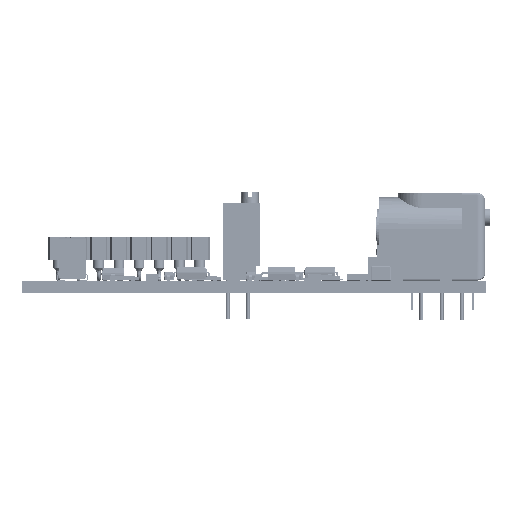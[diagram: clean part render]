
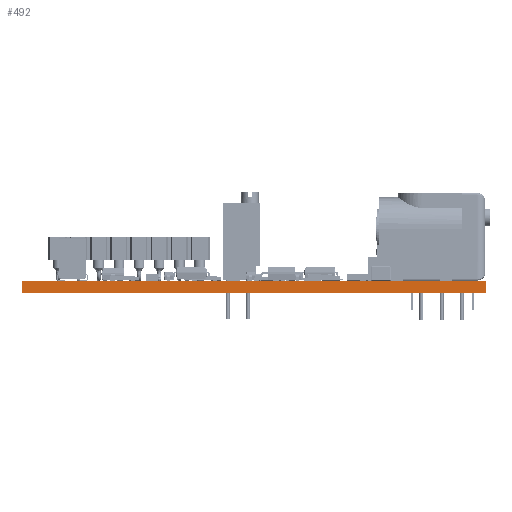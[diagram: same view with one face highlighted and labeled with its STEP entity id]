
A CAD part, front view. The second image highlights one B-rep face of the part: STEP entity #492.
In plain terms, the highlighted planar face has unit normal (0, -1, 0).
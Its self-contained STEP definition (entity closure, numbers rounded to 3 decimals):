
#434 = EDGE_CURVE('',#435,#437,#439,.T.);
#435 = VERTEX_POINT('',#436);
#436 = CARTESIAN_POINT('',(83.82,-119.38,0.));
#437 = VERTEX_POINT('',#438);
#438 = CARTESIAN_POINT('',(83.82,-119.38,-1.6));
#439 = LINE('',#440,#441);
#440 = CARTESIAN_POINT('',(83.82,-119.38,0.));
#441 = VECTOR('',#442,1.);
#442 = DIRECTION('',(0.,0.,-1.));
#467 = VERTEX_POINT('',#468);
#468 = CARTESIAN_POINT('',(25.4,-119.38,-1.6));
#474 = EDGE_CURVE('',#475,#467,#477,.T.);
#475 = VERTEX_POINT('',#476);
#476 = CARTESIAN_POINT('',(25.4,-119.38,0.));
#477 = LINE('',#478,#479);
#478 = CARTESIAN_POINT('',(25.4,-119.38,0.));
#479 = VECTOR('',#480,1.);
#480 = DIRECTION('',(0.,0.,-1.));
#492 = ADVANCED_FACE('',(#493),#509,.T.);
#493 = FACE_BOUND('',#494,.T.);
#494 = EDGE_LOOP('',(#495,#496,#502,#503));
#495 = ORIENTED_EDGE('',*,*,#474,.T.);
#496 = ORIENTED_EDGE('',*,*,#497,.T.);
#497 = EDGE_CURVE('',#467,#437,#498,.T.);
#498 = LINE('',#499,#500);
#499 = CARTESIAN_POINT('',(25.4,-119.38,-1.6));
#500 = VECTOR('',#501,1.);
#501 = DIRECTION('',(1.,0.,0.));
#502 = ORIENTED_EDGE('',*,*,#434,.F.);
#503 = ORIENTED_EDGE('',*,*,#504,.F.);
#504 = EDGE_CURVE('',#475,#435,#505,.T.);
#505 = LINE('',#506,#507);
#506 = CARTESIAN_POINT('',(25.4,-119.38,0.));
#507 = VECTOR('',#508,1.);
#508 = DIRECTION('',(1.,0.,0.));
#509 = PLANE('',#510);
#510 = AXIS2_PLACEMENT_3D('',#511,#512,#513);
#511 = CARTESIAN_POINT('',(25.4,-119.38,0.));
#512 = DIRECTION('',(0.,-1.,0.));
#513 = DIRECTION('',(1.,0.,0.));
